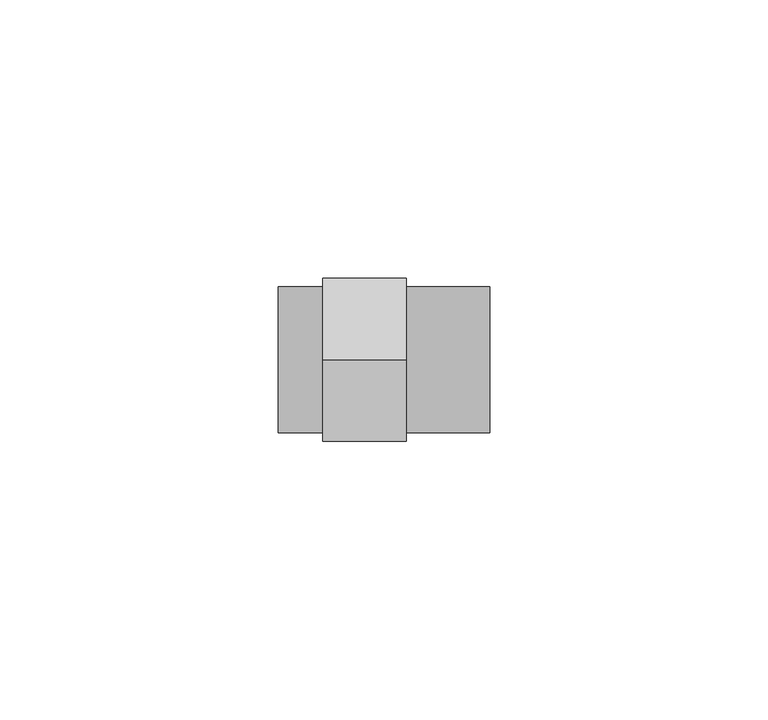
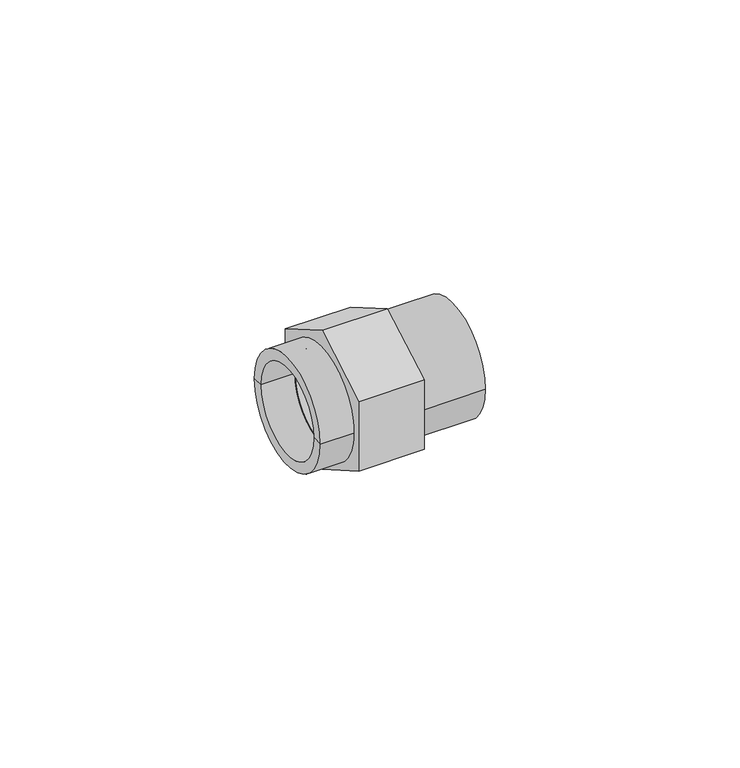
"""IFC4 building model written with IfcOpenShell, lengths in millimetres: pipe fitting geometry."""

from ifc_helpers import new_model, si_unit, point, frame, origin, origin_2d, place, context, project, spatial, polyline, circle_curve, trimmed, segment, composite_curve, outline, extrude, source, transform, mapped, element, save
from ifc_brep_helpers import plane_surface, cylinder_surface, revolved_surface, advanced_brep


def pipe_fitting_36b1eb7f(model_context):
    return source(origin(), model_context, "Body", "SolidModel", [
        extrude(outline(polyline([(-14.65, -8.4581814), (-14.65, 8.4581814), (0.0, 16.9163629), (14.65, 8.4581814), (14.65, -8.4581814), (0.0, -16.9163629), (-14.65, -8.4581814)]), holes=[composite_curve([segment(trimmed(circle_curve(origin_2d(), 10.65), [point((-10.65, 0.0))], [point((10.65, 0.0))], True, "CARTESIAN"), True, "CONTINUOUS"), segment(trimmed(circle_curve(origin_2d(), 10.65), [point((10.65, 0.0))], [point((-10.65, 0.0))], True, "CARTESIAN"), True, "CONTINUOUS")], self_intersect=False)]), frame((-11.0, 0.0, 0.0), z_axis=(1.0, 0.0, 0.0), x_axis=(0.0, 1.0, 0.0)), (0.0, 0.0, 1.0), 15.0),
        advanced_brep(
        [(4.0, -13.15, 0.0), (4.0, 13.15, 0.0), (19.0, 13.15, 0.0), (19.0, -13.15, 0.0), (4.0, 0.0, 0.0), (19.0, 0.0, 0.0)],
        [
            (0, 1, circle_curve(frame((4.0, 0.0, 0.0), z_axis=(1.0, 0.0, 0.0), x_axis=(0.0, 1.0, 0.0)), 13.15)),
            (1, 2),
            (2, 3, circle_curve(frame((19.0, 0.0, 0.0), z_axis=(-1.0, 0.0, 0.0), x_axis=(0.0, 1.0, 0.0)), 13.15)),
            (3, 0),
            (1, 0, circle_curve(frame((4.0, 0.0, 0.0), z_axis=(1.0, 0.0, 0.0), x_axis=(0.0, 1.0, 0.0)), 13.15)),
            (3, 2, circle_curve(frame((19.0, 0.0, 0.0), z_axis=(-1.0, 0.0, 0.0), x_axis=(0.0, 1.0, 0.0)), 13.15)),
            (4, 1),
            (0, 4),
            (2, 5),
            (5, 3),
        ],
        [
            cylinder_surface(frame((1998.0, 0.0, 0.0), z_axis=(-1.0, 0.0, 0.0), x_axis=(0.0, 1.0, 0.0)), 13.15),
            plane_surface(frame((4.0, 0.0, 0.0), z_axis=(-1.0, 0.0, 0.0), x_axis=(0.0, 1.0, 0.0))),
            plane_surface(frame((19.0, 0.0, 0.0), z_axis=(1.0, 0.0, 0.0), x_axis=(0.0, 1.0, 0.0))),
        ],
        [
            (0, [[1, 2, 3, 4]]),
            (0, [[5, -4, 6, -2]]),
            (1, [[7, -1, 8]]),
            (1, [[-8, -5, -7]]),
            (2, [[-3, 9, 10]]),
            (2, [[-6, -10, -9]]),
        ],
    ),
        advanced_brep(
        [(-19.0, -13.15, 0.0), (-19.0, 13.15, 0.0), (-11.0, 13.15, 0.0), (-11.0, -13.15, 0.0), (-19.0, -10.65, 0.0), (-19.0, 10.65, 0.0), (-11.0, 10.65, 0.0), (-11.0, -10.65, 0.0)],
        [
            (0, 1, circle_curve(frame((-19.0, 0.0, 0.0), z_axis=(1.0, 0.0, 0.0), x_axis=(0.0, 1.0, 0.0)), 13.15)),
            (1, 2),
            (2, 3, circle_curve(frame((-11.0, 0.0, 0.0), z_axis=(-1.0, 0.0, 0.0), x_axis=(0.0, 1.0, 0.0)), 13.15)),
            (3, 0),
            (1, 0, circle_curve(frame((-19.0, 0.0, 0.0), z_axis=(1.0, 0.0, 0.0), x_axis=(0.0, 1.0, 0.0)), 13.15)),
            (3, 2, circle_curve(frame((-11.0, 0.0, 0.0), z_axis=(-1.0, 0.0, 0.0), x_axis=(0.0, 1.0, 0.0)), 13.15)),
            (4, 5, circle_curve(frame((-19.0, 0.0, 0.0), z_axis=(1.0, 0.0, 0.0), x_axis=(0.0, 1.0, 0.0)), 10.65)),
            (5, 1),
            (0, 4),
            (5, 4, circle_curve(frame((-19.0, 0.0, 0.0), z_axis=(1.0, 0.0, 0.0), x_axis=(0.0, 1.0, 0.0)), 10.65)),
            (2, 6),
            (6, 7, circle_curve(frame((-11.0, 0.0, 0.0), z_axis=(-1.0, 0.0, 0.0), x_axis=(0.0, 1.0, 0.0)), 10.65)),
            (7, 3),
            (7, 6, circle_curve(frame((-11.0, 0.0, 0.0), z_axis=(-1.0, 0.0, 0.0), x_axis=(0.0, 1.0, 0.0)), 10.65)),
            (6, 5),
            (4, 7),
        ],
        [
            cylinder_surface(frame((1988.5, 0.0, 0.0), z_axis=(-1.0, 0.0, 0.0), x_axis=(0.0, 1.0, 0.0)), 13.15),
            plane_surface(frame((-19.0, 0.0, 0.0), z_axis=(-1.0, 0.0, 0.0), x_axis=(0.0, 1.0, 0.0))),
            plane_surface(frame((-11.0, 0.0, 0.0), z_axis=(1.0, 0.0, 0.0), x_axis=(0.0, 1.0, 0.0))),
            revolved_surface(polyline([(-19.0, 10.65, 0.0), (-11.0, 10.65, 0.0)]), (1988.5, 0.0, 0.0), (-1.0, 0.0, 0.0)),
        ],
        [
            (0, [[1, 2, 3, 4]]),
            (0, [[5, -4, 6, -2]]),
            (1, [[7, 8, -1, 9]]),
            (1, [[10, -9, -5, -8]]),
            (2, [[-3, 11, 12, 13]]),
            (2, [[-6, -13, 14, -11]]),
            (3, [[-12, 15, -7, 16]]),
            (3, [[-14, -16, -10, -15]]),
        ],
    ),
    ])


if __name__ == "__main__":
    model = new_model("IFC4")
    model_context = context("Model", 3, world=origin())
    ifc_project = project(units=[si_unit("LENGTHUNIT", "METRE", prefix="MILLI")], contexts=[model_context])
    site = spatial("IfcSite", under=ifc_project)
    building = spatial("IfcBuilding", under=site)
    placement = place(None, origin())
    pipe_fitting_shape = pipe_fitting_36b1eb7f(model_context)
    element("IfcPipeFitting", 1, ObjectType="NLRS_50_PIF_UN_adapter met buitendraad MF 1_2_ en binnendraad_geb : DN15-15 / G1/2\"-R1/2\"", at=placement, inside=building, context=model_context, shape_type="MappedRepresentation", body=[
        mapped(pipe_fitting_shape, transform((0.0, 0.0, 0.0), x_axis=(1.0, 0.0, 0.0), y_axis=(0.0, 1.0, 0.0), z_axis=(0.0, 0.0, 1.0))),
    ])
    save(model, "model.ifc")
